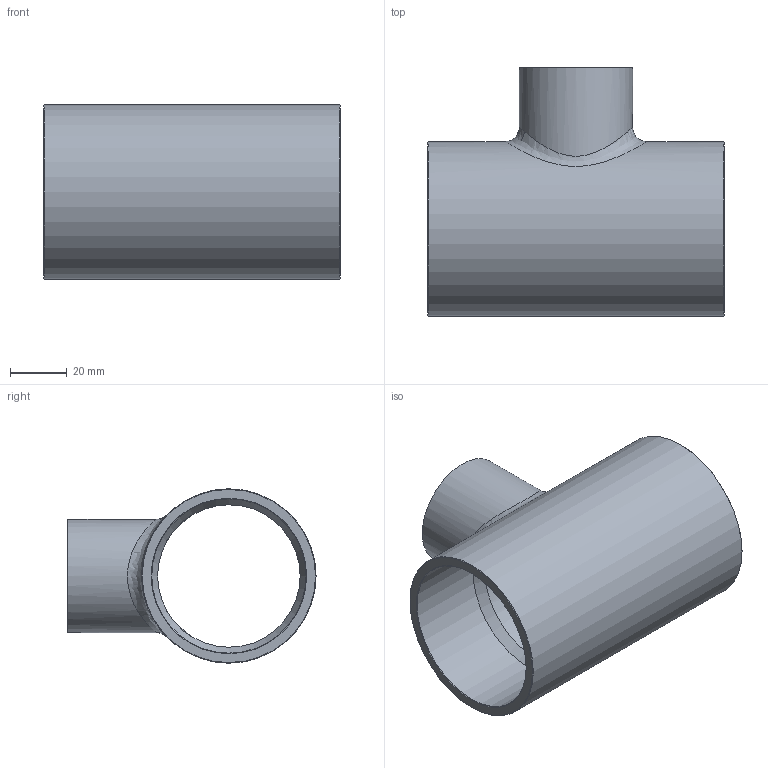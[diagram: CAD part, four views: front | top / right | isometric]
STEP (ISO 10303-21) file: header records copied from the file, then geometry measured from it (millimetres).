
FILE_DESCRIPTION((''),'2;1');
FILE_NAME('G:\SANHA-Ternat\Technik\Management\Bouwmaten + markeringen\z-maattekeningen 3D\29000s\29130218138218_3d.stp','2018-12-05T14:57:12',('vdvijverd'),(''),'Autodesk Inventor 2009','Autodesk Inventor 2009','');
FILE_SCHEMA(('AUTOMOTIVE_DESIGN { 1 0 10303 214 1 1 1 1 }'));
Length unit declared in the file: millimetre
Products named in the file (1): 29130218138218_3d
Bounding box: 104 x 87.1 x 61.2 mm (x, y, z)
Volume: 85203 mm3; surface area: 43745.4 mm2
Topology: 1 solids, 1 shells, 21 faces, 58 edges, 38 vertices
Faces by surface type: cone 7, cylinder 7, bspline 4, plane 3
Full cylindrical faces by diameter (mm): 35.105 x1, 39.7 x1, 54.155 x1, 61.2 x1
Entity records: 2121 total; most frequent: CARTESIAN_POINT 1671, DIRECTION 80, ORIENTED_EDGE 76, AXIS2_PLACEMENT_3D 40, EDGE_CURVE 38, EDGE_LOOP 38, VERTEX_POINT 32, CIRCLE 22
